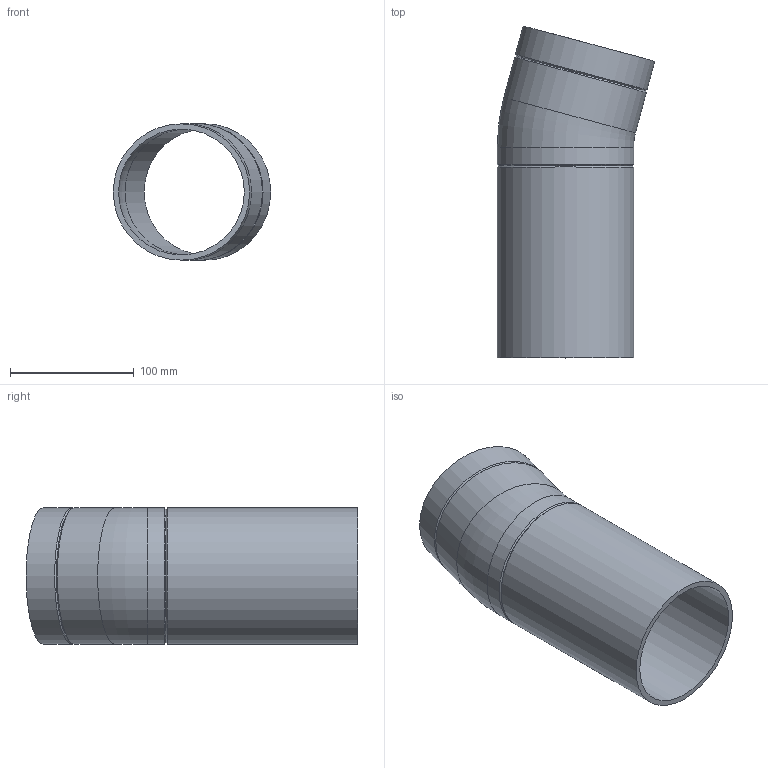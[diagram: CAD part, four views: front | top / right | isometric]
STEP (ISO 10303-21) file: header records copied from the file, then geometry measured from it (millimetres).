
FILE_DESCRIPTION(/* description */ (''),/* implementation_level */ '2;1');
FILE_NAME(/* name */ 'Z:\Geberit\Export\NewStep\PE Bogen Einzelteil_Ipart\stp\367015.stp',/* time_stamp */ '2014-04-02T11:55:57+02:00',/* author */ ('bruh'),/* organization */ (''),/* preprocessor_version */ 'ST-DEVELOPER v15.2',/* originating_system */ 'Autodesk Inventor 2014',/* authorisation */ '');
FILE_SCHEMA (('AUTOMOTIVE_DESIGN { 1 0 10303 214 3 1 1 }'));
Length unit declared in the file: millimetre
Products named in the file (1): 367015
Bounding box: 127.02 x 267.75 x 110 mm (x, y, z)
Volume: 364492.9 mm3; surface area: 173382.1 mm2
Topology: 1 solids, 1 shells, 14 faces, 28 edges, 16 vertices
Faces by surface type: cylinder 6, cone 4, torus 2, plane 2
Full cylindrical faces by diameter (mm): 101.4 x2, 110 x4
Entity records: 323 total; most frequent: DIRECTION 58, CARTESIAN_POINT 43, AXIS2_PLACEMENT_3D 29, EDGE_LOOP 28, ORIENTED_EDGE 28, FACE_BOUND 16, STYLED_ITEM 15, CIRCLE 14
